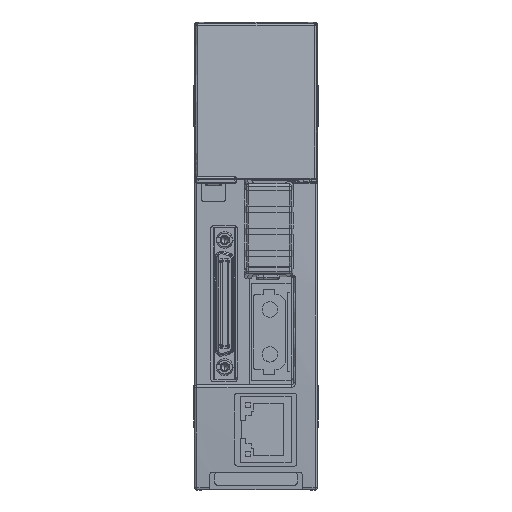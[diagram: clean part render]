
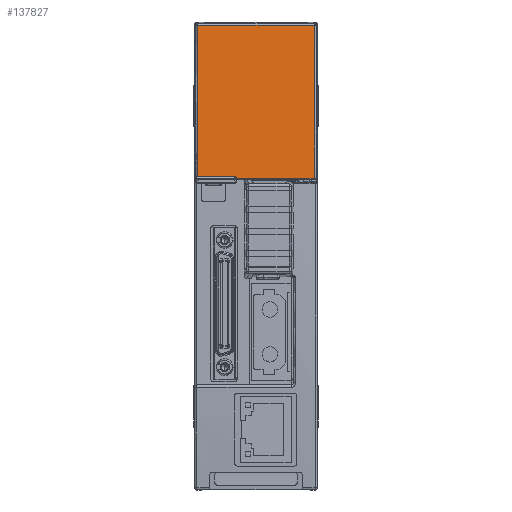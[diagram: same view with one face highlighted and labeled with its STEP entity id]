
A CAD part, top view. The second image highlights one B-rep face of the part: STEP entity #137827.
In plain terms, the highlighted cylindrical face has radius 500 mm (diameter 1000 mm), a partial arc.
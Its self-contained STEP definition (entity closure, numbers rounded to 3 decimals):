
#29 = CARTESIAN_POINT ( 'NONE',  ( -27.041, 3.257, 107.262 ) ) ;
#659 = EDGE_CURVE ( 'NONE', #32069, #18918, #24602, .T. ) ;
#1121 = CARTESIAN_POINT ( 'NONE',  ( -18.271, -31.393, 109.69 ) ) ;
#1265 = CARTESIAN_POINT ( 'NONE',  ( -27.042, -30.967, 109.675 ) ) ;
#5518 = DIRECTION ( 'NONE',  ( 1., 0., 0. ) ) ;
#5868 = CARTESIAN_POINT ( 'NONE',  ( -27.037, -30.967, 109.675 ) ) ;
#7003 = ORIENTED_EDGE ( 'NONE', *, *, #22271, .T. ) ;
#7818 = EDGE_CURVE ( 'NONE', #32069, #29722, #20950, .T. ) ;
#10005 = EDGE_CURVE ( 'NONE', #135491, #29722, #32772, .T. ) ;
#14152 = LINE ( 'NONE', #58266, #62912 ) ;
#18918 = VERTEX_POINT ( 'NONE', #1265 ) ;
#20909 = CARTESIAN_POINT ( 'NONE',  ( -27.041, 3.257, 107.262 ) ) ;
#20950 = LINE ( 'NONE', #39036, #42727 ) ;
#22271 = EDGE_CURVE ( 'NONE', #113873, #132234, #24302, .T. ) ;
#23788 = ORIENTED_EDGE ( 'NONE', *, *, #58324, .T. ) ;
#24302 = B_SPLINE_CURVE_WITH_KNOTS ( 'NONE', 3,
 ( #52144, #84013, #51672, #127106, #62919, #137869 ),
 .UNSPECIFIED., .F., .F.,
 ( 4, 2, 4 ),
 ( 0., 0., 0.001 ),
 .UNSPECIFIED. ) ;
#24602 = B_SPLINE_CURVE_WITH_KNOTS ( 'NONE', 3,
 ( #20909, #52727, #138461, #95823 ),
 .UNSPECIFIED., .F., .F.,
 ( 4, 4 ),
 ( 0.191, 0.224 ),
 .UNSPECIFIED. ) ;
#28235 = DIRECTION ( 'NONE',  ( 1., 0., 0. ) ) ;
#29722 = VERTEX_POINT ( 'NONE', #36090 ) ;
#32069 = VERTEX_POINT ( 'NONE', #29 ) ;
#32772 = B_SPLINE_CURVE_WITH_KNOTS ( 'NONE', 3,
 ( #123908, #48963, #113147, #134676 ),
 .UNSPECIFIED., .F., .F.,
 ( 4, 4 ),
 ( 0.024, 0.059 ),
 .UNSPECIFIED. ) ;
#33883 = ORIENTED_EDGE ( 'NONE', *, *, #10005, .T. ) ;
#36090 = CARTESIAN_POINT ( 'NONE',  ( -0.759, 3.257, 107.262 ) ) ;
#39036 = CARTESIAN_POINT ( 'NONE',  ( -27.041, 3.257, 107.262 ) ) ;
#42727 = VECTOR ( 'NONE', #28235, 1000. ) ;
#47527 = FACE_OUTER_BOUND ( 'NONE', #61546, .T. ) ;
#48464 = CARTESIAN_POINT ( 'NONE',  ( -27.042, -30.967, 109.675 ) ) ;
#48963 = CARTESIAN_POINT ( 'NONE',  ( -0.758, -19.823, 109.282 ) ) ;
#51672 = CARTESIAN_POINT ( 'NONE',  ( -18.569, -31.027, 109.677 ) ) ;
#52144 = CARTESIAN_POINT ( 'NONE',  ( -18.8, -30.967, 109.675 ) ) ;
#52727 = CARTESIAN_POINT ( 'NONE',  ( -27.042, -8.122, 108.458 ) ) ;
#55606 = ORIENTED_EDGE ( 'NONE', *, *, #128071, .T. ) ;
#58266 = CARTESIAN_POINT ( 'NONE',  ( -27.8, -31.393, 109.69 ) ) ;
#58324 = EDGE_CURVE ( 'NONE', #132234, #135491, #14152, .T. ) ;
#59185 = VERTEX_POINT ( 'NONE', #118438 ) ;
#61060 = CARTESIAN_POINT ( 'NONE',  ( -18.8, -30.967, 109.675 ) ) ;
#61546 = EDGE_LOOP ( 'NONE', ( #55606, #7003, #23788, #33883, #75107, #92475, #88621 ) ) ;
#62912 = VECTOR ( 'NONE', #80317, 1000. ) ;
#62919 = CARTESIAN_POINT ( 'NONE',  ( -18.327, -31.288, 109.686 ) ) ;
#64820 = CARTESIAN_POINT ( 'NONE',  ( -0.758, -31.393, 109.69 ) ) ;
#70067 = CARTESIAN_POINT ( 'NONE',  ( -27.039, -30.967, 109.675 ) ) ;
#75107 = ORIENTED_EDGE ( 'NONE', *, *, #7818, .F. ) ;
#78993 = LINE ( 'NONE', #80904, #107483 ) ;
#80317 = DIRECTION ( 'NONE',  ( 1., 0., 0. ) ) ;
#80904 = CARTESIAN_POINT ( 'NONE',  ( -27.8, -30.967, 109.675 ) ) ;
#84013 = CARTESIAN_POINT ( 'NONE',  ( -18.68, -30.967, 109.675 ) ) ;
#88621 = ORIENTED_EDGE ( 'NONE', *, *, #123845, .T. ) ;
#88927 = B_SPLINE_CURVE_WITH_KNOTS ( 'NONE', 3,
 ( #48464, #112674, #70067, #5868 ),
 .UNSPECIFIED., .F., .F.,
 ( 4, 4 ),
 ( 0., 1. ),
 .UNSPECIFIED. ) ;
#88994 = DIRECTION ( 'NONE',  ( 1., 0., 0. ) ) ;
#92475 = ORIENTED_EDGE ( 'NONE', *, *, #659, .T. ) ;
#95823 = CARTESIAN_POINT ( 'NONE',  ( -27.042, -30.967, 109.675 ) ) ;
#99716 = DIRECTION ( 'NONE',  ( 0., 0., 1. ) ) ;
#101124 = CYLINDRICAL_SURFACE ( 'NONE', #103257, 500. ) ;
#103257 = AXIS2_PLACEMENT_3D ( 'NONE', #110521, #88994, #99716 ) ;
#107483 = VECTOR ( 'NONE', #5518, 1000. ) ;
#110521 = CARTESIAN_POINT ( 'NONE',  ( -27.8, -49., -390. ) ) ;
#112674 = CARTESIAN_POINT ( 'NONE',  ( -27.041, -30.967, 109.675 ) ) ;
#113147 = CARTESIAN_POINT ( 'NONE',  ( -0.758, -8.256, 108.472 ) ) ;
#113873 = VERTEX_POINT ( 'NONE', #61060 ) ;
#118438 = CARTESIAN_POINT ( 'NONE',  ( -27.037, -30.967, 109.675 ) ) ;
#123845 = EDGE_CURVE ( 'NONE', #18918, #59185, #88927, .T. ) ;
#123908 = CARTESIAN_POINT ( 'NONE',  ( -0.758, -31.393, 109.69 ) ) ;
#127106 = CARTESIAN_POINT ( 'NONE',  ( -18.393, -31.189, 109.683 ) ) ;
#128071 = EDGE_CURVE ( 'NONE', #59185, #113873, #78993, .T. ) ;
#132234 = VERTEX_POINT ( 'NONE', #1121 ) ;
#134676 = CARTESIAN_POINT ( 'NONE',  ( -0.759, 3.257, 107.262 ) ) ;
#135491 = VERTEX_POINT ( 'NONE', #64820 ) ;
#137827 = ADVANCED_FACE ( 'NONE', ( #47527 ), #101124, .T. ) ;
#137869 = CARTESIAN_POINT ( 'NONE',  ( -18.271, -31.393, 109.69 ) ) ;
#138461 = CARTESIAN_POINT ( 'NONE',  ( -27.042, -19.541, 109.262 ) ) ;
